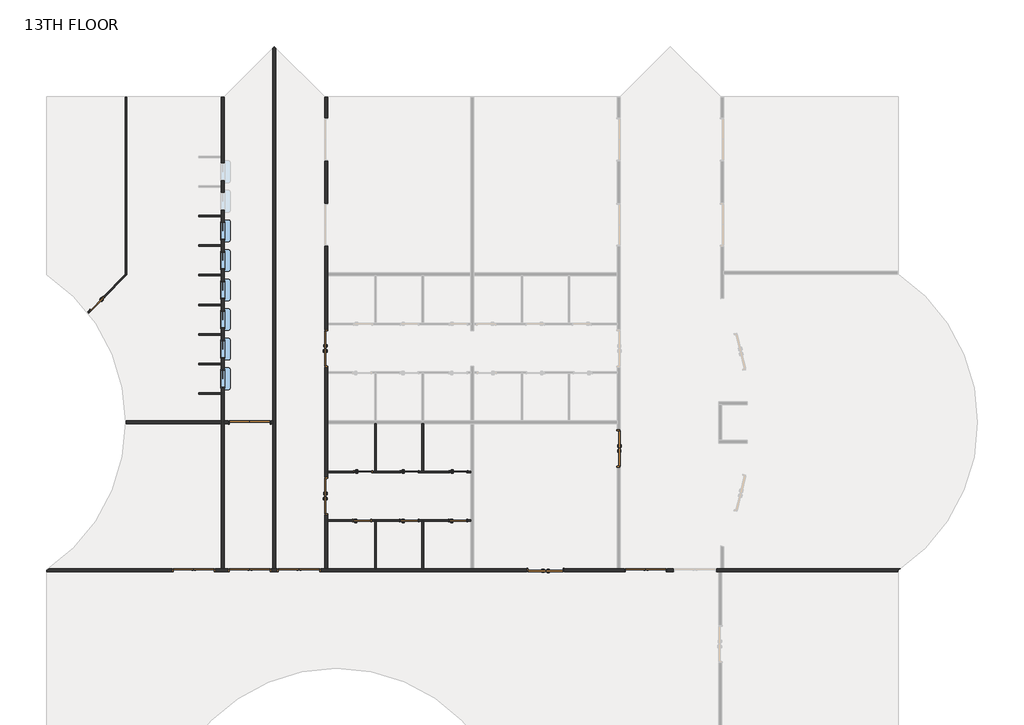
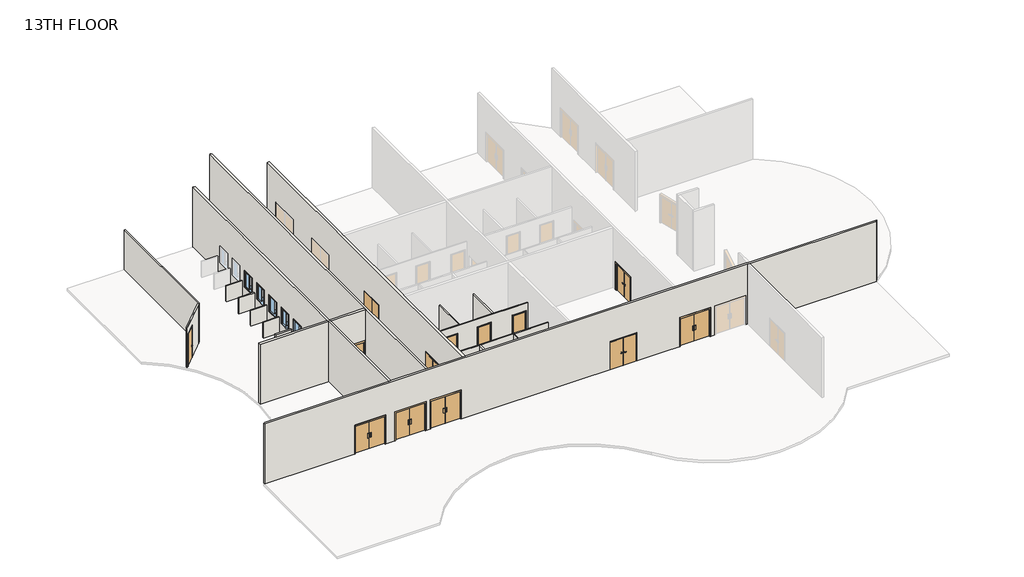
# One storey, part 1 of 2: 20 walls, 16 doors, 6 windows.
"""IFC4 building model written with IfcOpenShell, lengths in millimetres."""

from ifc_helpers import new_model, si_unit, point, frame, frame_2d, origin, place, context, project, spatial, polyline, circle_curve, trimmed, segment, composite_curve, outline, extrude, faceted_brep, transform, mapped, element, save
from ifc_brep_helpers import plane_surface, cylinder_surface, revolved_surface, advanced_brep
from components import door_2f250f70, door_0b13e4d9, door_b3a27a16, door_979b1b8c, door_f8b587be, pass_thru_4x3_19d81059

model = new_model("IFC4")

# Units and contexts
model_context = context("Model", 3, world=origin())
ifc_project = project(units=[si_unit("LENGTHUNIT", "METRE", prefix="MILLI")], contexts=[model_context])

# Site, building, storey
site = spatial("IfcSite", under=ifc_project)
building = spatial("IfcBuilding", under=site)
storey = spatial("IfcBuildingStorey", under=building, Name="13TH FLOOR", Elevation=59436.0)

# Doors
placement = place(None, origin())
door_shape = door_2f250f70(model_context)
element("IfcDoor", 1, ObjectType="Door-Passage-Double-Flush : 72\" x 82\"", at=placement, inside=storey, context=model_context, shape_type="MappedRepresentation", body=[
    mapped(door_shape, transform((14556.3400257, 13109.575, 59436.0), x_axis=(0.0, 1.0, 0.0), y_axis=(-1.0, 0.0, 0.0), z_axis=(0.0, 0.0, 1.0))),
])
element("IfcDoor", 2, ObjectType="Door-Passage-Double-Flush : 72\" x 82\"", at=placement, inside=storey, context=model_context, shape_type="MappedRepresentation", body=[
    mapped(door_shape, transform((14556.3400257, 20729.575, 59436.0), x_axis=(0.0, 1.0, 0.0), y_axis=(-1.0, 0.0, 0.0), z_axis=(0.0, 0.0, 1.0))),
])
element("IfcDoor", 3, ObjectType="Door-Passage-Double-Flush : 72\" x 82\"", at=placement, inside=storey, context=model_context, shape_type="MappedRepresentation", body=[
    mapped(door_shape, transform((25872.8337757, 9305.925, 59436.0), x_axis=(-1.0, 0.0, 0.0), y_axis=(0.0, -1.0, 0.0), z_axis=(0.0, 0.0, 1.0))),
])
element("IfcDoor", 4, ObjectType="Door-Passage-Double-Flush : 72\" x 82\"", at=placement, inside=storey, context=model_context, shape_type="MappedRepresentation", body=[
    mapped(door_shape, transform((29628.0650257, 15571.7875, 59436.0), x_axis=(0.0, -1.0, 0.0), y_axis=(1.0, 0.0, 0.0), z_axis=(0.0, 0.0, 1.0))),
])
door_2_shape = door_0b13e4d9(model_context)
element("IfcDoor", 5, ObjectType="Door-Passage-Double-Flush-Dbl_Acting : 84\" x 84\"", at=placement, inside=storey, context=model_context, shape_type="MappedRepresentation", body=[
    mapped(door_2_shape, transform((13151.4025257, 9293.225, 59436.0), x_axis=(-1.0, 0.0, 0.0), y_axis=(0.0, -1.0, 0.0), z_axis=(0.0, 0.0, 1.0))),
])
door_3_shape = door_b3a27a16(model_context)
element("IfcDoor", 6, ObjectType="Door-Passage-Double-Flush-Dbl_Acting : 84\" x 84\"", at=placement, inside=storey, context=model_context, shape_type="MappedRepresentation", body=[
    mapped(door_3_shape, transform((31033.0025257, 9293.225, 59436.0), x_axis=(1.0, 0.0, 0.0), y_axis=(0.0, 1.0, 0.0), z_axis=(0.0, 0.0, 1.0))),
])
element("IfcDoor", 7, ObjectType="Door-Passage-Double-Flush-Dbl_Acting : 84\" x 84\"", at=placement, inside=storey, context=model_context, shape_type="MappedRepresentation", body=[
    mapped(door_3_shape, transform((10620.375, 9293.225, 59436.0), x_axis=(1.0, 0.0, 0.0), y_axis=(0.0, 1.0, 0.0), z_axis=(0.0, 0.0, 1.0))),
])
element("IfcDoor", 8, ObjectType="Door-Passage-Double-Flush-Dbl_Acting : 84\" x 84\"", at=placement, inside=storey, context=model_context, shape_type="MappedRepresentation", body=[
    mapped(door_3_shape, transform((7730.5724743, 9293.225, 59436.0), x_axis=(1.0, 0.0, 0.0), y_axis=(0.0, 1.0, 0.0), z_axis=(0.0, 0.0, 1.0))),
])
element("IfcDoor", 9, ObjectType="Door-Passage-Double-Flush-Dbl_Acting : 84\" x 84\"", at=placement, inside=storey, context=model_context, shape_type="MappedRepresentation", body=[
    mapped(door_3_shape, transform((10620.375, 16913.225, 59436.0), x_axis=(1.0, 0.0, 0.0), y_axis=(0.0, 1.0, 0.0), z_axis=(0.0, 0.0, 1.0))),
])
door_4_shape = door_979b1b8c(model_context)
element("IfcDoor", 10, ObjectType="Door-Passage-Single-Flush : 36\" x 96\"", at=placement, inside=storey, context=model_context, shape_type="MappedRepresentation", body=[
    mapped(door_4_shape, transform((16456.5775257, 14357.35, 59436.0), x_axis=(1.0, 0.0, 0.0), y_axis=(0.0, 1.0, 0.0), z_axis=(0.0, 0.0, 1.0))),
])
element("IfcDoor", 11, ObjectType="Door-Passage-Single-Flush : 36\" x 96\"", at=placement, inside=storey, context=model_context, shape_type="MappedRepresentation", body=[
    mapped(door_4_shape, transform((18855.2900257, 14357.35, 59436.0), x_axis=(1.0, 0.0, 0.0), y_axis=(0.0, 1.0, 0.0), z_axis=(0.0, 0.0, 1.0))),
])
element("IfcDoor", 12, ObjectType="Door-Passage-Single-Flush : 36\" x 96\"", at=placement, inside=storey, context=model_context, shape_type="MappedRepresentation", body=[
    mapped(door_4_shape, transform((21373.0650257, 14357.35, 59436.0), x_axis=(1.0, 0.0, 0.0), y_axis=(0.0, 1.0, 0.0), z_axis=(0.0, 0.0, 1.0))),
])
element("IfcDoor", 13, ObjectType="Door-Passage-Single-Flush : 36\" x 96\"", at=placement, inside=storey, context=model_context, shape_type="MappedRepresentation", body=[
    mapped(door_4_shape, transform((2731.3607977, 23031.2061406, 59436.0), x_axis=(-0.7071067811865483, -0.7071067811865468, 0.0), y_axis=(0.7071067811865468, -0.7071067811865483, 0.0), z_axis=(0.0, 0.0, 1.0))),
])
door_5_shape = door_f8b587be(model_context)
element("IfcDoor", 14, ObjectType="Door-Passage-Single-Flush : 36\" x 96\"", at=placement, inside=storey, context=model_context, shape_type="MappedRepresentation", body=[
    mapped(door_5_shape, transform((16405.7775257, 11861.8, 59436.0), x_axis=(1.0, 0.0, 0.0), y_axis=(0.0, 1.0, 0.0), z_axis=(0.0, 0.0, 1.0))),
])
element("IfcDoor", 15, ObjectType="Door-Passage-Single-Flush : 36\" x 96\"", at=placement, inside=storey, context=model_context, shape_type="MappedRepresentation", body=[
    mapped(door_5_shape, transform((18836.2400257, 11861.8, 59436.0), x_axis=(1.0, 0.0, 0.0), y_axis=(0.0, 1.0, 0.0), z_axis=(0.0, 0.0, 1.0))),
])
element("IfcDoor", 16, ObjectType="Door-Passage-Single-Flush : 36\" x 96\"", at=placement, inside=storey, context=model_context, shape_type="MappedRepresentation", body=[
    mapped(door_5_shape, transform((21354.0150257, 11861.8, 59436.0), x_axis=(1.0, 0.0, 0.0), y_axis=(0.0, 1.0, 0.0), z_axis=(0.0, 0.0, 1.0))),
])

# Walls
element("IfcWall", 17, ObjectType="SYR_INT_ONE_HOUR", at=placement, inside=storey, context=model_context, shape_type="SweptSolid", body=[
    extrude(outline(polyline([(17066.1775257, 14403.3875), (17066.1775257, 16841.7875), (17145.5525257, 16841.7875), (17145.5525257, 14403.3875), (17066.1775257, 14403.3875)])), frame((0.0, 0.0, 59436.0), z_axis=(0.0, 0.0, 1.0), x_axis=(1.0, 0.0, 0.0)), (0.0, 0.0, 1.0), 3048.0),
])
element("IfcWall", 18, ObjectType="SYR_INT_ONE_HOUR", at=placement, inside=storey, context=model_context, shape_type="SweptSolid", body=[
    extrude(outline(polyline([(19576.0150257, 11815.7625), (19576.0150257, 9377.3625), (19496.6400257, 9377.3625), (19496.6400257, 11815.7625), (19576.0150257, 11815.7625)])), frame((0.0, 0.0, 59436.0), z_axis=(0.0, 0.0, 1.0), x_axis=(1.0, 0.0, 0.0)), (0.0, 0.0, 1.0), 3048.0),
])
element("IfcWall", 19, ObjectType="SYR_INT_ONE_HOUR", at=placement, inside=storey, context=model_context, shape_type="Brep", body=[
    faceted_brep([(14627.7775257, 14403.3875, 62484.0), (17066.1775257, 14403.3875, 62484.0), (17145.5525257, 14403.3875, 62484.0), (19496.6400257, 14403.3875, 62484.0), (19576.0150257, 14403.3875, 62484.0), (22014.4150257, 14403.3875, 62484.0), (22014.4150257, 14403.3875, 59436.0), (21862.0150257, 14403.3875, 59436.0), (21862.0150257, 14403.3875, 61906.15), (20884.1150257, 14403.3875, 61906.15), (20884.1150257, 14403.3875, 59436.0), (19576.0150257, 14403.3875, 59436.0), (19496.6400257, 14403.3875, 59436.0), (19344.2400257, 14403.3875, 59436.0), (19344.2400257, 14403.3875, 61906.15), (18366.3400257, 14403.3875, 61906.15), (18366.3400257, 14403.3875, 59436.0), (17145.5525257, 14403.3875, 59436.0), (17066.1775257, 14403.3875, 59436.0), (16945.5275257, 14403.3875, 59436.0), (16945.5275257, 14403.3875, 61906.15), (15967.6275257, 14403.3875, 61906.15), (15967.6275257, 14403.3875, 59436.0), (14627.7775257, 14403.3875, 59436.0), (22014.4150257, 14324.0125, 62484.0), (14627.7775257, 14324.0125, 62484.0), (14627.7775257, 14324.0125, 59436.0), (15967.6275257, 14324.0125, 59436.0), (15967.6275257, 14324.0125, 61906.15), (16945.5275257, 14324.0125, 61906.15), (16945.5275257, 14324.0125, 59436.0), (18366.3400257, 14324.0125, 59436.0), (18366.3400257, 14324.0125, 61906.15), (19344.2400257, 14324.0125, 61906.15), (19344.2400257, 14324.0125, 59436.0), (20884.1150257, 14324.0125, 59436.0), (20884.1150257, 14324.0125, 61906.15), (21862.0150257, 14324.0125, 61906.15), (21862.0150257, 14324.0125, 59436.0), (22014.4150257, 14324.0125, 59436.0)], [[[0, 1, 2, 3, 4, 5, 6, 7, 8, 9, 10, 11, 12, 13, 14, 15, 16, 17, 18, 19, 20, 21, 22, 23]], [[24, 25, 26, 27, 28, 29, 30, 31, 32, 33, 34, 35, 36, 37, 38, 39]], [[6, 39, 38, 7]], [[26, 23, 22, 27]], [[30, 19, 18, 17, 16, 31]], [[34, 13, 12, 11, 10, 35]], [[5, 4, 3, 2, 1, 0, 25, 24]], [[0, 23, 26, 25]], [[6, 5, 24, 39]], [[29, 20, 19, 30]], [[20, 29, 28, 21]], [[21, 28, 27, 22]], [[14, 13, 34, 33]], [[15, 14, 33, 32]], [[16, 15, 32, 31]], [[37, 8, 7, 38]], [[8, 37, 36, 9]], [[9, 36, 35, 10]]]),
])
element("IfcWall", 20, ObjectType="SYR_INT_ONE_HOUR", at=placement, inside=storey, context=model_context, shape_type="Brep", body=[
    faceted_brep([(14627.7775257, 11895.1375, 62484.0), (22014.4150257, 11895.1375, 62484.0), (22014.4150257, 11895.1375, 59436.0), (21842.9650257, 11895.1375, 59436.0), (21842.9650257, 11895.1375, 61906.15), (20865.0650257, 11895.1375, 61906.15), (20865.0650257, 11895.1375, 59436.0), (19325.1900257, 11895.1375, 59436.0), (19325.1900257, 11895.1375, 61906.15), (18347.2900257, 11895.1375, 61906.15), (18347.2900257, 11895.1375, 59436.0), (16894.7275257, 11895.1375, 59436.0), (16894.7275257, 11895.1375, 61906.15), (15916.8275257, 11895.1375, 61906.15), (15916.8275257, 11895.1375, 59436.0), (14627.7775257, 11895.1375, 59436.0), (22014.4150257, 11815.7625, 62484.0), (19576.0150257, 11815.7625, 62484.0), (19496.6400257, 11815.7625, 62484.0), (17145.5525257, 11815.7625, 62484.0), (17066.1775257, 11815.7625, 62484.0), (14627.7775257, 11815.7625, 62484.0), (14627.7775257, 11815.7625, 59436.0), (15916.8275257, 11815.7625, 59436.0), (15916.8275257, 11815.7625, 61906.15), (16894.7275257, 11815.7625, 61906.15), (16894.7275257, 11815.7625, 59436.0), (17066.1775257, 11815.7625, 59436.0), (17145.5525257, 11815.7625, 59436.0), (18347.2900257, 11815.7625, 59436.0), (18347.2900257, 11815.7625, 61906.15), (19325.1900257, 11815.7625, 61906.15), (19325.1900257, 11815.7625, 59436.0), (19496.6400257, 11815.7625, 59436.0), (19576.0150257, 11815.7625, 59436.0), (20865.0650257, 11815.7625, 59436.0), (20865.0650257, 11815.7625, 61906.15), (21842.9650257, 11815.7625, 61906.15), (21842.9650257, 11815.7625, 59436.0), (22014.4150257, 11815.7625, 59436.0)], [[[0, 1, 2, 3, 4, 5, 6, 7, 8, 9, 10, 11, 12, 13, 14, 15]], [[16, 17, 18, 19, 20, 21, 22, 23, 24, 25, 26, 27, 28, 29, 30, 31, 32, 33, 34, 35, 36, 37, 38, 39]], [[2, 39, 38, 3]], [[22, 15, 14, 23]], [[26, 11, 10, 29, 28, 27]], [[32, 7, 6, 35, 34, 33]], [[1, 0, 21, 20, 19, 18, 17, 16]], [[0, 15, 22, 21]], [[2, 1, 16, 39]], [[25, 12, 11, 26]], [[12, 25, 24, 13]], [[13, 24, 23, 14]], [[31, 8, 7, 32]], [[8, 31, 30, 9]], [[9, 30, 29, 10]], [[37, 4, 3, 38]], [[4, 37, 36, 5]], [[5, 36, 35, 6]]]),
])
element("IfcWall", 21, ObjectType="SYR_INT_ONE_HOUR", at=placement, inside=storey, context=model_context, shape_type="SweptSolid", body=[
    extrude(outline(polyline([(17066.1775257, 9377.3625), (17066.1775257, 11815.7625), (17145.5525257, 11815.7625), (17145.5525257, 9377.3625), (17066.1775257, 9377.3625)])), frame((0.0, 0.0, 59436.0), z_axis=(0.0, 0.0, 1.0), x_axis=(1.0, 0.0, 0.0)), (0.0, 0.0, 1.0), 3048.0),
])
element("IfcWall", 22, ObjectType="SYR_INT_ONE_HOUR", at=placement, inside=storey, context=model_context, shape_type="SweptSolid", body=[
    extrude(outline(polyline([(19576.0150257, 16841.7875), (19576.0150257, 14403.3875), (19496.6400257, 14403.3875), (19496.6400257, 16841.7875), (19576.0150257, 16841.7875)])), frame((0.0, 0.0, 59436.0), z_axis=(0.0, 0.0, 1.0), x_axis=(1.0, 0.0, 0.0)), (0.0, 0.0, 1.0), 3048.0),
])
element("IfcWall", 23, ObjectType="SYR_INT_ONE_HOUR", at=placement, inside=storey, context=model_context, shape_type="SweptSolid", body=[
    extrude(outline(polyline([(7979.2710938, 18443.575), (9144.0, 18443.575), (9144.0, 18364.2), (7979.2710938, 18364.2), (7979.2710938, 18443.575)])), frame((0.0, 0.0, 59436.0), z_axis=(0.0, 0.0, 1.0), x_axis=(1.0, 0.0, 0.0)), (0.0, 0.0, 1.0), 1219.2),
])
element("IfcWall", 24, ObjectType="SYR_INT_ONE_HOUR", at=placement, inside=storey, context=model_context, shape_type="SweptSolid", body=[
    extrude(outline(polyline([(7979.2710938, 19967.575), (9144.0, 19967.575), (9144.0, 19888.2), (7979.2710938, 19888.2), (7979.2710938, 19967.575)])), frame((0.0, 0.0, 59436.0), z_axis=(0.0, 0.0, 1.0), x_axis=(1.0, 0.0, 0.0)), (0.0, 0.0, 1.0), 1219.2),
])
element("IfcWall", 25, ObjectType="SYR_INT_ONE_HOUR", at=placement, inside=storey, context=model_context, shape_type="SweptSolid", body=[
    extrude(outline(polyline([(7979.2710938, 21491.575), (9144.0, 21491.575), (9144.0, 21412.2), (7979.2710938, 21412.2), (7979.2710938, 21491.575)])), frame((0.0, 0.0, 59436.0), z_axis=(0.0, 0.0, 1.0), x_axis=(1.0, 0.0, 0.0)), (0.0, 0.0, 1.0), 1219.2),
])
element("IfcWall", 26, ObjectType="SYR_INT_ONE_HOUR", at=placement, inside=storey, context=model_context, shape_type="SweptSolid", body=[
    extrude(outline(polyline([(7979.2710938, 23015.575), (9144.0, 23015.575), (9144.0, 22936.2), (7979.2710938, 22936.2), (7979.2710938, 23015.575)])), frame((0.0, 0.0, 59436.0), z_axis=(0.0, 0.0, 1.0), x_axis=(1.0, 0.0, 0.0)), (0.0, 0.0, 1.0), 1219.2),
])
element("IfcWall", 27, ObjectType="SYR_INT_ONE_HOUR", at=placement, inside=storey, context=model_context, shape_type="SweptSolid", body=[
    extrude(outline(polyline([(7979.2710938, 24539.575), (9144.0, 24539.575), (9144.0, 24460.2), (7979.2710938, 24460.2), (7979.2710938, 24539.575)])), frame((0.0, 0.0, 59436.0), z_axis=(0.0, 0.0, 1.0), x_axis=(1.0, 0.0, 0.0)), (0.0, 0.0, 1.0), 1219.2),
])
element("IfcWall", 28, ObjectType="SYR_INT_ONE_HOUR", at=placement, inside=storey, context=model_context, shape_type="SweptSolid", body=[
    extrude(outline(polyline([(7979.2710938, 26063.575), (9144.0, 26063.575), (9144.0, 25984.2), (7979.2710938, 25984.2), (7979.2710938, 26063.575)])), frame((0.0, 0.0, 59436.0), z_axis=(0.0, 0.0, 1.0), x_axis=(1.0, 0.0, 0.0)), (0.0, 0.0, 1.0), 1219.2),
])
element("IfcWall", 29, ObjectType="SYR_INT_ONE_HOUR", at=placement, inside=storey, context=model_context, shape_type="SweptSolid", body=[
    extrude(outline(polyline([(7979.2710938, 27587.575), (9144.0, 27587.575), (9144.0, 27508.2), (7979.2710938, 27508.2), (7979.2710938, 27587.575)])), frame((0.0, 0.0, 59436.0), z_axis=(0.0, 0.0, 1.0), x_axis=(1.0, 0.0, 0.0)), (0.0, 0.0, 1.0), 1219.2),
])
element("IfcWall", 30, ObjectType="SYR_INT_ONE_HOUR", at=placement, inside=storey, context=model_context, shape_type="Brep", body=[
    faceted_brep([(4209.0224132, 33683.575, 59436.0), (4209.0224132, 24556.0141008, 59436.0), (4209.0224132, 24443.7608992, 59436.0), (4209.0224132, 24443.7608992, 62484.0), (4209.0224132, 24556.0141008, 62484.0), (4209.0224132, 33683.575, 62484.0), (4288.3974132, 33683.575, 59436.0), (4288.3974132, 33683.575, 62484.0), (4288.3974132, 24523.1358992, 62484.0), (4288.3974132, 24523.1358992, 59436.0)], [[[0, 1, 2, 3, 4, 5]], [[6, 7, 8, 9]], [[2, 1, 0, 6, 9]], [[5, 4, 3, 8, 7]], [[3, 2, 9, 8]], [[0, 5, 7, 6]]]),
])
element("IfcWall", 31, ObjectType="SYR_INT_ONE_HOUR", at=placement, inside=storey, context=model_context, shape_type="AdvancedBrep", body=[
    advanced_brep(
    [(2260.5955581, 22607.5872456, 62484.0), (4209.0224132, 24556.0141008, 62484.0), (4209.0224132, 24556.0141008, 59436.0), (3053.527486, 23400.5191735, 59436.0), (3053.527486, 23400.5191735, 61906.15), (2362.0477647, 22709.0394522, 61906.15), (2362.0477647, 22709.0394522, 59436.0), (2260.5955581, 22607.5872456, 59436.0), (4209.0224132, 24443.7608992, 62484.0), (2310.04482, 22544.783306, 62484.0), (2310.04482, 22544.783306, 59436.0), (2418.1743655, 22652.9128515, 59436.0), (2418.1743655, 22652.9128515, 61906.15), (3109.6540868, 23344.3925728, 61906.15), (3109.6540868, 23344.3925728, 59436.0), (4209.0224132, 24443.7608992, 59436.0)],
    [
        (0, 1),
        (1, 2),
        (2, 3),
        (3, 4),
        (4, 5),
        (5, 6),
        (6, 7),
        (7, 0),
        (8, 9),
        (9, 10),
        (10, 11),
        (11, 12),
        (12, 13),
        (13, 14),
        (14, 15),
        (15, 8),
        (2, 15),
        (14, 3),
        (10, 7, circle_curve(frame((-4898.9611805, 16919.575, 59436.0), z_axis=(0.0, 0.0, 1.0), x_axis=(1.0, 0.0, 0.0)), 9144.0)),
        (6, 11),
        (0, 9, circle_curve(frame((-4898.9611805, 16919.575, 62484.0), z_axis=(0.0, 0.0, -1.0), x_axis=(1.0, 0.0, 0.0)), 9144.0)),
        (8, 1),
        (5, 12),
        (4, 13),
    ],
    [
        plane_surface(frame((4220.6466129, 24567.6383004, 59436.0), z_axis=(-0.7071067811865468, 0.7071067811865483, 0.0), x_axis=(-0.7071067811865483, -0.7071067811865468, 0.0))),
        plane_surface(frame((4276.7732136, 24511.5116996, 59436.0), z_axis=(0.7071067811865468, -0.7071067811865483, 0.0), x_axis=(0.7071067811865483, 0.7071067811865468, 0.0))),
        plane_surface(frame((4220.6466129, 24567.6383004, 59436.0), z_axis=(0.0, 0.0, -1.0), x_axis=(0.7071067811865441, -0.7071067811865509, 0.0))),
        plane_surface(frame((2146.5216178, 22493.5133053, 62484.0), z_axis=(0.0, 0.0, 1.0000000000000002), x_axis=(0.7071067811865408, -0.7071067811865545, 0.0))),
        plane_surface(frame((4209.0224132, 33778.5769531, 59436.0), z_axis=(1.0, 0.0, 0.0), x_axis=(0.0, -1.0, 0.0))),
        plane_surface(frame((1284.4170302, 23786.6701867, 59436.0), z_axis=(0.7071067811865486, 0.7071067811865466, 0.0), x_axis=(0.7071067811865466, -0.7071067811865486, 0.0))),
        plane_surface(frame((1284.4170302, 23786.6701867, 61906.15), z_axis=(0.0, 0.0, -1.0), x_axis=(0.7071067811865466, -0.7071067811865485, 0.0))),
        plane_surface(frame((1975.8967515, 24478.1499081, 61906.15), z_axis=(-0.7071067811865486, -0.7071067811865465, 0.0), x_axis=(0.7071067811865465, -0.7071067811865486, 0.0))),
        revolved_surface(polyline([(4245.0388195, 16919.575, 62484.0), (4245.0388195, 16919.575, 59436.0)]), (-4898.9611805, 16919.575, 0.0), (0.0, 0.0, 1.0)),
    ],
    [
        (0, [[1, 2, 3, 4, 5, 6, 7, 8]]),
        (1, [[9, 10, 11, 12, 13, 14, 15, 16]]),
        (2, [[17, -15, 18, -3]]),
        (2, [[19, -7, 20, -11]]),
        (3, [[-1, 21, -9, 22]]),
        (4, [[-2, -22, -16, -17]]),
        (5, [[23, -12, -20, -6]]),
        (6, [[-23, -5, 24, -13]]),
        (7, [[-24, -4, -18, -14]]),
        (8, [[-8, -19, -10, -21]]),
    ],
),
])
element("IfcWall", 32, ObjectType="SYR_INT_TWO_HOUR", at=placement, inside=storey, context=model_context, shape_type="AdvancedBrep", body=[
    advanced_brep(
    [(270.9292057, 9377.3625, 64008.0), (9144.0, 9377.3625, 64008.0), (9299.575, 9377.3625, 64008.0), (11808.1012629, 9377.3625, 64008.0), (11963.6762629, 9377.3625, 64008.0), (14472.2025257, 9377.3625, 64008.0), (14627.7775257, 9377.3625, 64008.0), (22014.4150257, 9377.3625, 64008.0), (22169.9900257, 9377.3625, 64008.0), (29556.6275257, 9377.3625, 64008.0), (29712.2025257, 9377.3625, 64008.0), (34884.8300515, 9377.3625, 64008.0), (35040.4050515, 9377.3625, 64008.0), (44144.1842571, 9377.3625, 64008.0), (44144.1842571, 9377.3625, 59436.0), (35040.4050515, 9377.3625, 59436.0), (34884.8300515, 9377.3625, 59436.0), (34681.6300515, 9377.3625, 59436.0), (34681.6300515, 9377.3625, 61671.2), (32446.4300515, 9377.3625, 61671.2), (32446.4300515, 9377.3625, 59436.0), (32150.6025257, 9377.3625, 59436.0), (32150.6025257, 9377.3625, 61671.2), (29915.4025257, 9377.3625, 61671.2), (29915.4025257, 9377.3625, 59436.0), (29712.2025257, 9377.3625, 59436.0), (29556.6275257, 9377.3625, 59436.0), (26838.0337757, 9377.3625, 59436.0), (26838.0337757, 9377.3625, 61620.4), (24907.6337757, 9377.3625, 61620.4), (24907.6337757, 9377.3625, 59436.0), (22169.9900257, 9377.3625, 59436.0), (22014.4150257, 9377.3625, 59436.0), (19576.0150257, 9377.3625, 59436.0), (19496.6400257, 9377.3625, 59436.0), (17145.5525257, 9377.3625, 59436.0), (17066.1775257, 9377.3625, 59436.0), (14627.7775257, 9377.3625, 59436.0), (14472.2025257, 9377.3625, 59436.0), (14269.0025257, 9377.3625, 59436.0), (14269.0025257, 9377.3625, 61671.2), (12033.8025257, 9377.3625, 61671.2), (12033.8025257, 9377.3625, 59436.0), (11963.6762629, 9377.3625, 59436.0), (11808.1012629, 9377.3625, 59436.0), (11737.975, 9377.3625, 59436.0), (11737.975, 9377.3625, 61671.2), (9502.775, 9377.3625, 61671.2), (9502.775, 9377.3625, 59436.0), (9299.575, 9377.3625, 59436.0), (9144.0, 9377.3625, 59436.0), (8848.1724743, 9377.3625, 59436.0), (8848.1724743, 9377.3625, 61671.2), (6612.9724743, 9377.3625, 61671.2), (6612.9724743, 9377.3625, 59436.0), (270.9292057, 9377.3625, 59436.0), (155.575, 9221.7875, 64008.0), (155.575, 9221.7875, 59436.0), (6612.9724743, 9221.7875, 59436.0), (6612.9724743, 9221.7875, 61671.2), (8848.1724743, 9221.7875, 61671.2), (8848.1724743, 9221.7875, 59436.0), (9502.775, 9221.7875, 59436.0), (9502.775, 9221.7875, 61671.2), (11737.975, 9221.7875, 61671.2), (11737.975, 9221.7875, 59436.0), (12033.8025257, 9221.7875, 59436.0), (12033.8025257, 9221.7875, 61671.2), (14269.0025257, 9221.7875, 61671.2), (14269.0025257, 9221.7875, 59436.0), (24907.6337757, 9221.7875, 59436.0), (24907.6337757, 9221.7875, 61620.4), (26838.0337757, 9221.7875, 61620.4), (26838.0337757, 9221.7875, 59436.0), (29915.4025257, 9221.7875, 59436.0), (29915.4025257, 9221.7875, 61671.2), (32150.6025257, 9221.7875, 61671.2), (32150.6025257, 9221.7875, 59436.0), (32446.4300515, 9221.7875, 59436.0), (32446.4300515, 9221.7875, 61671.2), (34681.6300515, 9221.7875, 61671.2), (34681.6300515, 9221.7875, 59436.0), (34803.3714577, 9221.7875, 59436.0), (34958.9464577, 9221.7875, 59436.0), (44028.8300515, 9221.7875, 59436.0), (44028.8300515, 9221.7875, 64008.0), (34958.9464577, 9221.7875, 64008.0), (34803.3714577, 9221.7875, 64008.0), (44028.8300515, 9299.575, 59436.0), (155.575, 9299.575, 59436.0), (155.575, 9299.575, 64008.0), (44028.8300515, 9299.575, 64008.0)],
    [
        (0, 1),
        (1, 2),
        (2, 3),
        (3, 4),
        (4, 5),
        (5, 6),
        (6, 7),
        (7, 8),
        (8, 9),
        (9, 10),
        (10, 11),
        (11, 12),
        (12, 13),
        (13, 14),
        (14, 15),
        (15, 16),
        (16, 17),
        (17, 18),
        (18, 19),
        (19, 20),
        (20, 21),
        (21, 22),
        (22, 23),
        (23, 24),
        (24, 25),
        (25, 26),
        (26, 27),
        (27, 28),
        (28, 29),
        (29, 30),
        (30, 31),
        (31, 32),
        (32, 33),
        (33, 34),
        (34, 35),
        (35, 36),
        (36, 37),
        (37, 38),
        (38, 39),
        (39, 40),
        (40, 41),
        (41, 42),
        (42, 43),
        (43, 44),
        (44, 45),
        (45, 46),
        (46, 47),
        (47, 48),
        (48, 49),
        (49, 50),
        (50, 51),
        (51, 52),
        (52, 53),
        (53, 54),
        (54, 55),
        (55, 0),
        (56, 57),
        (57, 58),
        (58, 59),
        (59, 60),
        (60, 61),
        (61, 62),
        (62, 63),
        (63, 64),
        (64, 65),
        (65, 66),
        (66, 67),
        (67, 68),
        (68, 69),
        (69, 70),
        (70, 71),
        (71, 72),
        (72, 73),
        (73, 74),
        (74, 75),
        (75, 76),
        (76, 77),
        (77, 78),
        (78, 79),
        (79, 80),
        (80, 81),
        (81, 82),
        (82, 83),
        (83, 84),
        (84, 85),
        (85, 86),
        (86, 87),
        (87, 56),
        (20, 78),
        (77, 21),
        (81, 17),
        (14, 88, circle_curve(frame((38974.293871, 16919.575, 59436.0), z_axis=(0.0, 0.0, -1.0), x_axis=(0.8333333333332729, 0.5527707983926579, 0.0)), 9144.0)),
        (88, 84),
        (24, 74),
        (73, 27),
        (42, 66),
        (65, 45),
        (69, 39),
        (30, 70),
        (48, 62),
        (61, 51),
        (54, 58),
        (57, 89),
        (89, 55, circle_curve(frame((-4898.9611805, 16919.575, 59436.0), z_axis=(0.0, 0.0, 1.0), x_axis=(0.8333333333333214, 0.5527707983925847, 0.0)), 9144.0)),
        (0, 90, circle_curve(frame((-4898.9611805, 16919.575, 64008.0), z_axis=(0.0, 0.0, -1.0), x_axis=(0.8333333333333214, 0.5527707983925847, 0.0)), 9144.0)),
        (90, 56),
        (85, 91),
        (91, 13, circle_curve(frame((38974.293871, 16919.575, 64008.0), z_axis=(0.0, 0.0, 1.0), x_axis=(0.8333333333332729, 0.5527707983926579, 0.0)), 9144.0)),
        (19, 79),
        (18, 80),
        (76, 22),
        (75, 23),
        (41, 67),
        (40, 68),
        (64, 46),
        (63, 47),
        (60, 52),
        (59, 53),
        (29, 71),
        (28, 72),
        (89, 90),
        (91, 88),
    ],
    [
        plane_surface(frame((44028.8300515, 9377.3625, 59436.0), z_axis=(0.0, 1.0, 0.0), x_axis=(-1.0, 0.0, 0.0))),
        plane_surface(frame((44028.8300515, 9221.7875, 59436.0), z_axis=(0.0, -1.0, 0.0), x_axis=(1.0, 0.0, 0.0))),
        plane_surface(frame((44305.118871, 9377.3625, 59436.0), z_axis=(0.0, 0.0, -1.0), x_axis=(0.0, -1.0, 0.0))),
        plane_surface(frame((0.0, 9377.3625, 64008.0), z_axis=(0.0, 0.0, 1.0), x_axis=(0.0, -1.0, 0.0))),
        plane_surface(frame((32446.4300515, 10745.7875, 59436.0), z_axis=(1.0, 0.0, 0.0), x_axis=(0.0, -1.0, 0.0))),
        plane_surface(frame((32446.4300515, 10745.7875, 61671.2), z_axis=(0.0, 0.0, -1.0), x_axis=(0.0, -1.0, 0.0))),
        plane_surface(frame((34681.6300515, 10745.7875, 61671.2), z_axis=(-1.0, 0.0, 0.0), x_axis=(0.0, -1.0, 0.0))),
        plane_surface(frame((32150.6025257, 7697.7875, 59436.0), z_axis=(-1.0, 0.0, 0.0), x_axis=(0.0, 1.0, 0.0))),
        plane_surface(frame((32150.6025257, 7697.7875, 61671.2), z_axis=(0.0, 0.0, -1.0), x_axis=(0.0, 1.0, 0.0))),
        plane_surface(frame((29915.4025257, 7697.7875, 61671.2), z_axis=(1.0, 0.0, 0.0), x_axis=(0.0, 1.0, 0.0))),
        plane_surface(frame((12033.8025257, 10745.7875, 59436.0), z_axis=(1.0, 0.0, 0.0), x_axis=(0.0, -1.0, 0.0))),
        plane_surface(frame((12033.8025257, 10745.7875, 61671.2), z_axis=(0.0, 0.0, -1.0), x_axis=(0.0, -1.0, 0.0))),
        plane_surface(frame((14269.0025257, 10745.7875, 61671.2), z_axis=(-1.0, 0.0, 0.0), x_axis=(0.0, -1.0, 0.0))),
        plane_surface(frame((11737.975, 7697.7875, 59436.0), z_axis=(-1.0, 0.0, 0.0), x_axis=(0.0, 1.0, 0.0))),
        plane_surface(frame((11737.975, 7697.7875, 61671.2), z_axis=(0.0, 0.0, -1.0), x_axis=(0.0, 1.0, 0.0))),
        plane_surface(frame((9502.775, 7697.7875, 61671.2), z_axis=(1.0, 0.0, 0.0), x_axis=(0.0, 1.0, 0.0))),
        plane_surface(frame((8848.1724743, 7697.7875, 59436.0), z_axis=(-1.0, 0.0, 0.0), x_axis=(0.0, 1.0, 0.0))),
        plane_surface(frame((8848.1724743, 7697.7875, 61671.2), z_axis=(0.0, 0.0, -1.0), x_axis=(0.0, 1.0, 0.0))),
        plane_surface(frame((6612.9724743, 7697.7875, 61671.2), z_axis=(1.0, 0.0, 0.0), x_axis=(0.0, 1.0, 0.0))),
        plane_surface(frame((24907.6337757, 10901.3625, 59436.0), z_axis=(1.0, 0.0, 0.0), x_axis=(0.0, -1.0, 0.0))),
        plane_surface(frame((24907.6337757, 10901.3625, 61620.4), z_axis=(0.0, 0.0, -1.0), x_axis=(0.0, -1.0, 0.0))),
        plane_surface(frame((26838.0337757, 10901.3625, 61620.4), z_axis=(-1.0, 0.0, 0.0), x_axis=(0.0, -1.0, 0.0))),
        revolved_surface(polyline([(2721.0388194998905, 21974.111180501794, 64008.0), (2721.0388194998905, 21974.111180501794, 59436.0)]), (-4898.9611805, 16919.575, 59207.4), (0.0, 0.0, 1.0)),
        plane_surface(frame((155.575, -12852.9844355, 59207.4), z_axis=(-1.0, 0.0, 0.0), x_axis=(0.0, -1.0, 0.0))),
        cylinder_surface(frame((38974.293871, 16919.575, 59207.4), z_axis=(0.0, 0.0, 1.0), x_axis=(0.8333333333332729, 0.5527707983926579, 0.0)), 9144.0),
        plane_surface(frame((44028.8300515, -12852.9844355, 59207.4), z_axis=(1.0, 0.0, 0.0), x_axis=(0.0, 1.0, 0.0))),
    ],
    [
        (0, [[1, 2, 3, 4, 5, 6, 7, 8, 9, 10, 11, 12, 13, 14, 15, 16, 17, 18, 19, 20, 21, 22, 23, 24, 25, 26, 27, 28, 29, 30, 31, 32, 33, 34, 35, 36, 37, 38, 39, 40, 41, 42, 43, 44, 45, 46, 47, 48, 49, 50, 51, 52, 53, 54, 55, 56]]),
        (1, [[57, 58, 59, 60, 61, 62, 63, 64, 65, 66, 67, 68, 69, 70, 71, 72, 73, 74, 75, 76, 77, 78, 79, 80, 81, 82, 83, 84, 85, 86, 87, 88]]),
        (2, [[89, -78, 90, -21]]),
        (2, [[91, -17, -16, -15, 92, 93, -84, -83, -82]]),
        (2, [[94, -74, 95, -27, -26, -25]]),
        (2, [[96, -66, 97, -45, -44, -43]]),
        (2, [[98, -39, -38, -37, -36, -35, -34, -33, -32, -31, 99, -70]]),
        (2, [[100, -62, 101, -51, -50, -49]]),
        (2, [[-55, 102, -58, 103, 104]]),
        (3, [[-13, -12, -11, -10, -9, -8, -7, -6, -5, -4, -3, -2, -1, 105, 106, -88, -87, -86, 107, 108]]),
        (4, [[109, -79, -89, -20]]),
        (5, [[-109, -19, 110, -80]]),
        (6, [[-110, -18, -91, -81]]),
        (7, [[111, -22, -90, -77]]),
        (8, [[-111, -76, 112, -23]]),
        (9, [[-112, -75, -94, -24]]),
        (10, [[113, -67, -96, -42]]),
        (11, [[-113, -41, 114, -68]]),
        (12, [[-114, -40, -98, -69]]),
        (13, [[115, -46, -97, -65]]),
        (14, [[-115, -64, 116, -47]]),
        (15, [[-116, -63, -100, -48]]),
        (16, [[117, -52, -101, -61]]),
        (17, [[-117, -60, 118, -53]]),
        (18, [[-118, -59, -102, -54]]),
        (19, [[119, -71, -99, -30]]),
        (20, [[-119, -29, 120, -72]]),
        (21, [[-120, -28, -95, -73]]),
        (22, [[-56, -104, 121, -105]]),
        (23, [[-57, -106, -121, -103]]),
        (24, [[-14, -108, 122, -92]]),
        (25, [[-85, -93, -122, -107]]),
    ],
),
])
element("IfcWall", 33, ObjectType="SYR_INT_TWO_HOUR", at=placement, inside=storey, context=model_context, shape_type="Brep", body=[
    faceted_brep([(9144.0, 33683.575, 59436.0), (9144.0, 30635.575, 59436.0), (9144.0, 30556.2, 59436.0), (9144.0, 29111.575, 59436.0), (9144.0, 29032.2, 59436.0), (9144.0, 27587.575, 59436.0), (9144.0, 27508.2, 59436.0), (9144.0, 26063.575, 59436.0), (9144.0, 25984.2, 59436.0), (9144.0, 24539.575, 59436.0), (9144.0, 24460.2, 59436.0), (9144.0, 23015.575, 59436.0), (9144.0, 22936.2, 59436.0), (9144.0, 21491.575, 59436.0), (9144.0, 21412.2, 59436.0), (9144.0, 19967.575, 59436.0), (9144.0, 19888.2, 59436.0), (9144.0, 18443.575, 59436.0), (9144.0, 18364.2, 59436.0), (9144.0, 16997.3625, 59436.0), (9144.0, 16841.7875, 59436.0), (9144.0, 9377.3625, 59436.0), (9144.0, 9377.3625, 64008.0), (9144.0, 16841.7875, 64008.0), (9144.0, 16997.3625, 64008.0), (9144.0, 33683.575, 64008.0), (9144.0, 19623.0875, 61569.6), (9144.0, 18708.6875, 61569.6), (9144.0, 18708.6875, 60350.4), (9144.0, 19623.0875, 60350.4), (9144.0, 21147.0875, 61569.6), (9144.0, 20232.6875, 61569.6), (9144.0, 20232.6875, 60350.4), (9144.0, 21147.0875, 60350.4), (9144.0, 22671.0875, 61569.6), (9144.0, 21756.6875, 61569.6), (9144.0, 21756.6875, 60350.4), (9144.0, 22671.0875, 60350.4), (9144.0, 24195.0875, 61569.6), (9144.0, 23280.6875, 61569.6), (9144.0, 23280.6875, 60350.4), (9144.0, 24195.0875, 60350.4), (9144.0, 25719.0875, 61569.6), (9144.0, 24804.6875, 61569.6), (9144.0, 24804.6875, 60350.4), (9144.0, 25719.0875, 60350.4), (9144.0, 27243.0875, 61569.6), (9144.0, 26328.6875, 61569.6), (9144.0, 26328.6875, 60350.4), (9144.0, 27243.0875, 60350.4), (9144.0, 28767.0875, 61569.6), (9144.0, 27852.6875, 61569.6), (9144.0, 27852.6875, 60350.4), (9144.0, 28767.0875, 60350.4), (9144.0, 30291.0875, 61569.6), (9144.0, 29376.6875, 61569.6), (9144.0, 29376.6875, 60350.4), (9144.0, 30291.0875, 60350.4), (9299.575, 33683.575, 59436.0), (9299.575, 33683.575, 64008.0), (9299.575, 16997.3625, 64008.0), (9299.575, 16841.7875, 64008.0), (9299.575, 9377.3625, 64008.0), (9299.575, 9377.3625, 59436.0), (9299.575, 16841.7875, 59436.0), (9299.575, 16997.3625, 59436.0), (9299.575, 19623.0875, 61569.6), (9299.575, 19623.0875, 60350.4), (9299.575, 18708.6875, 60350.4), (9299.575, 18708.6875, 61569.6), (9299.575, 21147.0875, 61569.6), (9299.575, 21147.0875, 60350.4), (9299.575, 20232.6875, 60350.4), (9299.575, 20232.6875, 61569.6), (9299.575, 22671.0875, 61569.6), (9299.575, 22671.0875, 60350.4), (9299.575, 21756.6875, 60350.4), (9299.575, 21756.6875, 61569.6), (9299.575, 24195.0875, 61569.6), (9299.575, 24195.0875, 60350.4), (9299.575, 23280.6875, 60350.4), (9299.575, 23280.6875, 61569.6), (9299.575, 25719.0875, 61569.6), (9299.575, 25719.0875, 60350.4), (9299.575, 24804.6875, 60350.4), (9299.575, 24804.6875, 61569.6), (9299.575, 27243.0875, 61569.6), (9299.575, 27243.0875, 60350.4), (9299.575, 26328.6875, 60350.4), (9299.575, 26328.6875, 61569.6), (9299.575, 28767.0875, 61569.6), (9299.575, 28767.0875, 60350.4), (9299.575, 27852.6875, 60350.4), (9299.575, 27852.6875, 61569.6), (9299.575, 30291.0875, 61569.6), (9299.575, 30291.0875, 60350.4), (9299.575, 29376.6875, 60350.4), (9299.575, 29376.6875, 61569.6)], [[[0, 1, 2, 3, 4, 5, 6, 7, 8, 9, 10, 11, 12, 13, 14, 15, 16, 17, 18, 19, 20, 21, 22, 23, 24, 25], [26, 27, 28, 29], [30, 31, 32, 33], [34, 35, 36, 37], [38, 39, 40, 41], [42, 43, 44, 45], [46, 47, 48, 49], [50, 51, 52, 53], [54, 55, 56, 57]], [[58, 59, 60, 61, 62, 63, 64, 65], [66, 67, 68, 69], [70, 71, 72, 73], [74, 75, 76, 77], [78, 79, 80, 81], [82, 83, 84, 85], [86, 87, 88, 89], [90, 91, 92, 93], [94, 95, 96, 97]], [[21, 20, 19, 18, 17, 16, 15, 14, 13, 12, 11, 10, 9, 8, 7, 6, 5, 4, 3, 2, 1, 0, 58, 65, 64, 63]], [[25, 24, 23, 22, 62, 61, 60, 59]], [[22, 21, 63, 62]], [[67, 66, 26, 29]], [[68, 67, 29, 28]], [[69, 68, 28, 27]], [[66, 69, 27, 26]], [[71, 70, 30, 33]], [[72, 71, 33, 32]], [[73, 72, 32, 31]], [[70, 73, 31, 30]], [[75, 74, 34, 37]], [[76, 75, 37, 36]], [[77, 76, 36, 35]], [[74, 77, 35, 34]], [[79, 78, 38, 41]], [[80, 79, 41, 40]], [[81, 80, 40, 39]], [[78, 81, 39, 38]], [[83, 82, 42, 45]], [[84, 83, 45, 44]], [[85, 84, 44, 43]], [[82, 85, 43, 42]], [[87, 86, 46, 49]], [[88, 87, 49, 48]], [[89, 88, 48, 47]], [[86, 89, 47, 46]], [[91, 90, 50, 53]], [[92, 91, 53, 52]], [[93, 92, 52, 51]], [[90, 93, 51, 50]], [[95, 94, 54, 57]], [[96, 95, 57, 56]], [[97, 96, 56, 55]], [[94, 97, 55, 54]], [[0, 25, 59, 58]]]),
])
element("IfcWall", 34, ObjectType="SYR_INT_TWO_HOUR", at=placement, inside=storey, context=model_context, shape_type="Brep", body=[
    faceted_brep([(14472.2025257, 9377.3625, 64008.0), (14472.2025257, 33683.575, 64008.0), (14472.2025257, 33683.575, 59436.0), (14472.2025257, 32616.775, 59436.0), (14472.2025257, 32616.775, 61671.2), (14472.2025257, 30381.575, 61671.2), (14472.2025257, 30381.575, 59436.0), (14472.2025257, 28219.4, 59436.0), (14472.2025257, 28219.4, 61671.2), (14472.2025257, 25984.2, 61671.2), (14472.2025257, 25984.2, 59436.0), (14472.2025257, 21694.775, 59436.0), (14472.2025257, 21694.775, 61620.4), (14472.2025257, 19764.375, 61620.4), (14472.2025257, 19764.375, 59436.0), (14472.2025257, 14074.775, 59436.0), (14472.2025257, 14074.775, 61620.4), (14472.2025257, 12144.375, 61620.4), (14472.2025257, 12144.375, 59436.0), (14472.2025257, 9377.3625, 59436.0), (14627.7775257, 33683.575, 64008.0), (14627.7775257, 24617.3625, 64008.0), (14627.7775257, 24461.7875, 64008.0), (14627.7775257, 16997.3625, 64008.0), (14627.7775257, 16841.7875, 64008.0), (14627.7775257, 9377.3625, 64008.0), (14627.7775257, 9377.3625, 59436.0), (14627.7775257, 11815.7625, 59436.0), (14627.7775257, 11895.1375, 59436.0), (14627.7775257, 12144.375, 59436.0), (14627.7775257, 12144.375, 61620.4), (14627.7775257, 14074.775, 61620.4), (14627.7775257, 14074.775, 59436.0), (14627.7775257, 14324.0125, 59436.0), (14627.7775257, 14403.3875, 59436.0), (14627.7775257, 16841.7875, 59436.0), (14627.7775257, 16997.3625, 59436.0), (14627.7775257, 19435.7625, 59436.0), (14627.7775257, 19515.1375, 59436.0), (14627.7775257, 19764.375, 59436.0), (14627.7775257, 19764.375, 61620.4), (14627.7775257, 21694.775, 61620.4), (14627.7775257, 21694.775, 59436.0), (14627.7775257, 21944.0125, 59436.0), (14627.7775257, 22023.3875, 59436.0), (14627.7775257, 24461.7875, 59436.0), (14627.7775257, 24617.3625, 59436.0), (14627.7775257, 25984.2, 59436.0), (14627.7775257, 25984.2, 61671.2), (14627.7775257, 28219.4, 61671.2), (14627.7775257, 28219.4, 59436.0), (14627.7775257, 30381.575, 59436.0), (14627.7775257, 30381.575, 61671.2), (14627.7775257, 32616.775, 61671.2), (14627.7775257, 32616.775, 59436.0), (14627.7775257, 33683.575, 59436.0)], [[[0, 1, 2, 3, 4, 5, 6, 7, 8, 9, 10, 11, 12, 13, 14, 15, 16, 17, 18, 19]], [[20, 21, 22, 23, 24, 25, 26, 27, 28, 29, 30, 31, 32, 33, 34, 35, 36, 37, 38, 39, 40, 41, 42, 43, 44, 45, 46, 47, 48, 49, 50, 51, 52, 53, 54, 55]], [[26, 19, 18, 29, 28, 27]], [[32, 15, 14, 39, 38, 37, 36, 35, 34, 33]], [[42, 11, 10, 47, 46, 45, 44, 43]], [[3, 2, 55, 54]], [[6, 51, 50, 7]], [[1, 0, 25, 24, 23, 22, 21, 20]], [[0, 19, 26, 25]], [[31, 16, 15, 32]], [[16, 31, 30, 17]], [[17, 30, 29, 18]], [[41, 12, 11, 42]], [[12, 41, 40, 13]], [[13, 40, 39, 14]], [[53, 4, 3, 54]], [[4, 53, 52, 5]], [[5, 52, 51, 6]], [[49, 8, 7, 50]], [[8, 49, 48, 9]], [[9, 48, 47, 10]], [[2, 1, 20, 55]]]),
])
element("IfcWall", 35, ObjectType="SYR_INT_TWO_HOUR", at=placement, inside=storey, context=model_context, shape_type="Brep", body=[
    faceted_brep([(11963.6762629, 9377.3625, 59436.0), (11963.6762629, 36192.1012629, 59436.0), (11963.6762629, 36192.1012629, 64008.0), (11963.6762629, 9377.3625, 64008.0), (11808.1012629, 9377.3625, 59436.0), (11808.1012629, 9377.3625, 64008.0), (11808.1012629, 16841.7875, 64008.0), (11808.1012629, 16997.3625, 64008.0), (11808.1012629, 36192.1012629, 64008.0), (11808.1012629, 36192.1012629, 59436.0), (11808.1012629, 16997.3625, 59436.0), (11808.1012629, 16841.7875, 59436.0), (11885.8887629, 36269.8887629, 59436.0), (11885.8887629, 36269.8887629, 64008.0)], [[[0, 1, 2, 3]], [[4, 5, 6, 7, 8, 9, 10, 11]], [[1, 0, 4, 11, 10, 9, 12]], [[3, 2, 13, 8, 7, 6, 5]], [[0, 3, 5, 4]], [[2, 1, 12, 13]], [[12, 9, 8, 13]]]),
])
element("IfcWall", 36, ObjectType="SYR_INT_TWO_HOUR", at=placement, inside=storey, context=model_context, shape_type="SweptSolid", body=[
    extrude(outline(polyline([(59436.0, 11808.1012629), (64008.0, 11808.1012629), (64008.0, 9299.575), (59436.0, 9299.575), (59436.0, 9502.775), (61671.2, 9502.775), (61671.2, 11737.975), (59436.0, 11737.975), (59436.0, 11808.1012629)])), frame((0.0, 16841.7875, 0.0), z_axis=(0.0, 1.0, 0.0), x_axis=(0.0, 0.0, 1.0)), (0.0, 0.0, 1.0), 155.575),
    extrude(outline(composite_curve([segment(trimmed(circle_curve(frame_2d((-4898.9611805, 16919.575)), 9144.0), [point((4244.7079465, 16841.7875))], [point((4244.7079465, 16997.3625))], True, "CARTESIAN"), True, "CONTINUOUS"), segment(polyline([(4244.7079465, 16997.3625), (9144.0, 16997.3625), (9144.0, 16841.7875), (4244.7079465, 16841.7875)]), True, "CONTINUOUS")], self_intersect=False)), frame((0.0, 0.0, 59436.0), z_axis=(0.0, 0.0, 1.0), x_axis=(1.0, 0.0, 0.0)), (0.0, 0.0, 1.0), 4572.0),
])

# Windows
pass_thru_4x3_shape = pass_thru_4x3_19d81059(model_context)
element("IfcWindow", 37, ObjectType="Pass thru : 4x3", at=placement, inside=storey, context=model_context, shape_type="MappedRepresentation", body=[
    mapped(pass_thru_4x3_shape, transform((9221.7875, 19165.8875, 59436.0), x_axis=(0.0, 1.0, 0.0), y_axis=(-1.0, 0.0, 0.0), z_axis=(0.0, 0.0, 1.0))),
])
element("IfcWindow", 38, ObjectType="Pass thru : 4x3", at=placement, inside=storey, context=model_context, shape_type="MappedRepresentation", body=[
    mapped(pass_thru_4x3_shape, transform((9221.7875, 20689.8875, 59436.0), x_axis=(0.0, 1.0, 0.0), y_axis=(-1.0, 0.0, 0.0), z_axis=(0.0, 0.0, 1.0))),
])
element("IfcWindow", 39, ObjectType="Pass thru : 4x3", at=placement, inside=storey, context=model_context, shape_type="MappedRepresentation", body=[
    mapped(pass_thru_4x3_shape, transform((9221.7875, 22213.8875, 59436.0), x_axis=(0.0, 1.0, 0.0), y_axis=(-1.0, 0.0, 0.0), z_axis=(0.0, 0.0, 1.0))),
])
element("IfcWindow", 40, ObjectType="Pass thru : 4x3", at=placement, inside=storey, context=model_context, shape_type="MappedRepresentation", body=[
    mapped(pass_thru_4x3_shape, transform((9221.7875, 23737.8875, 59436.0), x_axis=(0.0, 1.0, 0.0), y_axis=(-1.0, 0.0, 0.0), z_axis=(0.0, 0.0, 1.0))),
])
element("IfcWindow", 41, ObjectType="Pass thru : 4x3", at=placement, inside=storey, context=model_context, shape_type="MappedRepresentation", body=[
    mapped(pass_thru_4x3_shape, transform((9221.7875, 25261.8875, 59436.0), x_axis=(0.0, 1.0, 0.0), y_axis=(-1.0, 0.0, 0.0), z_axis=(0.0, 0.0, 1.0))),
])
element("IfcWindow", 42, ObjectType="Pass thru : 4x3", at=placement, inside=storey, context=model_context, shape_type="MappedRepresentation", body=[
    mapped(pass_thru_4x3_shape, transform((9221.7875, 26785.8875, 59436.0), x_axis=(0.0, 1.0, 0.0), y_axis=(-1.0, 0.0, 0.0), z_axis=(0.0, 0.0, 1.0))),
])

save(model, "model.ifc")
